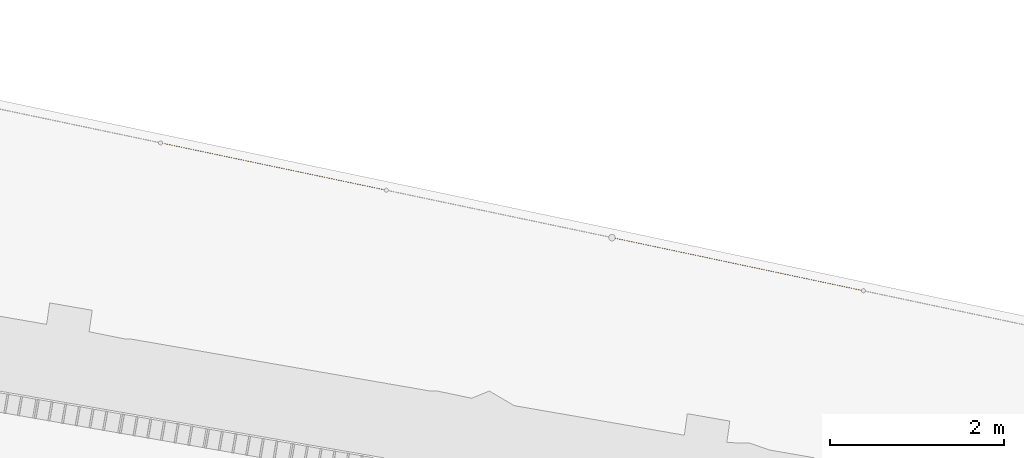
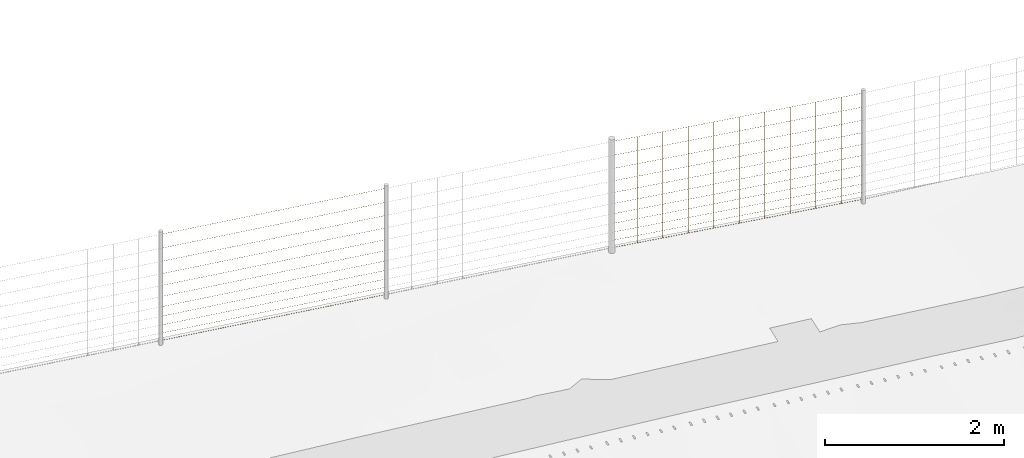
# Not in any storey, part 53 of 72: 2 railings.
"""IFC4 model written with IfcOpenShell, lengths in metres."""

from ifc_helpers import new_model, si_unit, direction, frame, origin_with_axes, place, context, subcontext, project, spatial, polygons, material, element, save


model = new_model("IFC4")

# Units and contexts
model_context = context("Model", 3, precision=1e-05, world=origin_with_axes(), true_north=direction((0.0, 1.0)))
body_context = subcontext(model_context, "Body", "Model", "MODEL_VIEW")
ifc_project = project(units=[si_unit("AREAUNIT", "SQUARE_METRE"), si_unit("VOLUMEUNIT", "CUBIC_METRE"), si_unit("LENGTHUNIT", "METRE")], contexts=[model_context])

# Site
site_placement = place(None, origin_with_axes())
site = spatial("IfcSite", under=ifc_project, at=site_placement, Name="Lares · Rua das Mercês · artigo 4771")

# Railings
ifc_material = material(Name="Aço galvanizado / Stahl verzinkt", Category="steel")
railing_1_placement = place(site_placement, frame((0.0, 0.0, 0.0), z_axis=(0.0, 0.0, 1.0), x_axis=(1.0, -1.03767253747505e-17, 0.0)))
element("IfcRailing", 1, at=railing_1_placement, inside=site, material=ifc_material, Name="Vedação · rede ovelheira 1.070", ObjectType="SHEEP_WIRE_FENCE", PredefinedType="USERDEFINED", context=body_context, shape_type="Tessellation", body=[
    polygons([(51.3069349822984, 14.2981467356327, 15.252935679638), (51.3072714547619, 14.2996087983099, 15.2514359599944), (51.307551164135, 14.3010827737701, 15.252935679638), (51.3072146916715, 14.2996207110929, 15.2544353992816), (53.907056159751, 13.7524632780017, 15.3043091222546), (53.9073926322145, 13.7539253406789, 15.302809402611), (53.9076723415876, 13.7553993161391, 15.3043091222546), (53.9073358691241, 13.7539372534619, 15.3058088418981), (51.3069349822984, 14.2981467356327, 15.352935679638), (51.3072714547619, 14.2996087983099, 15.3514359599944), (51.307551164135, 14.3010827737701, 15.352935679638), (51.3072146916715, 14.2996207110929, 15.3544353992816), (53.907056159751, 13.7524632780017, 15.4043091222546), (53.9073926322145, 13.7539253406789, 15.402809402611), (53.9076723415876, 13.7553993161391, 15.4043091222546), (53.9073358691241, 13.7539372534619, 15.4058088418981), (51.3069349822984, 14.2981467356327, 15.462935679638), (51.3072714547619, 14.2996087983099, 15.4614359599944), (51.307551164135, 14.3010827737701, 15.462935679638), (51.3072146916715, 14.2996207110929, 15.4644353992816), (53.907056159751, 13.7524632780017, 15.5143091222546), (53.9073926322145, 13.7539253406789, 15.512809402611), (53.9076723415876, 13.7553993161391, 15.5143091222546), (53.9073358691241, 13.7539372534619, 15.5158088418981), (51.3069349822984, 14.2981467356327, 15.582935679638), (51.3072714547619, 14.2996087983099, 15.5814359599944), (51.307551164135, 14.3010827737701, 15.582935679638), (51.3072146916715, 14.2996207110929, 15.5844353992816), (53.907056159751, 13.7524632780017, 15.6343091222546), (53.9073926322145, 13.7539253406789, 15.632809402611), (53.9076723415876, 13.7553993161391, 15.6343091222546), (53.9073358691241, 13.7539372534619, 15.6358088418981), (51.3069349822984, 14.2981467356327, 15.712935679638), (51.3072714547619, 14.2996087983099, 15.7114359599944), (51.307551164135, 14.3010827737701, 15.712935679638), (51.3072146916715, 14.2996207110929, 15.7144353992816), (53.907056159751, 13.7524632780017, 15.7643091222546), (53.9073926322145, 13.7539253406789, 15.762809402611), (53.9076723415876, 13.7553993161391, 15.7643091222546), (53.9073358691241, 13.7539372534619, 15.7658088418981), (51.3069349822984, 14.2981467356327, 15.852935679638), (51.3072714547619, 14.2996087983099, 15.8514359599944), (51.307551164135, 14.3010827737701, 15.852935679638), (51.3072146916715, 14.2996207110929, 15.8544353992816), (53.907056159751, 13.7524632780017, 15.9043091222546), (53.9073926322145, 13.7539253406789, 15.902809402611), (53.9076723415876, 13.7553993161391, 15.9043091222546), (53.9073358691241, 13.7539372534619, 15.9058088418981), (51.3069349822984, 14.2981467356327, 16.002935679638), (51.3072714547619, 14.2996087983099, 16.0014359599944), (51.307551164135, 14.3010827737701, 16.002935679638), (51.3072146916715, 14.2996207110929, 16.0044353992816), (53.907056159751, 13.7524632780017, 16.0543091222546), (53.9073926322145, 13.7539253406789, 16.052809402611), (53.9076723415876, 13.7553993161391, 16.0543091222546), (53.9073358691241, 13.7539372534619, 16.0558088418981), (51.3069349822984, 14.2981467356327, 16.162935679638), (51.3072714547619, 14.2996087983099, 16.1614359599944), (51.307551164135, 14.3010827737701, 16.162935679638), (51.3072146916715, 14.2996207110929, 16.1644353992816), (53.907056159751, 13.7524632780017, 16.2143091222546), (53.9073926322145, 13.7539253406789, 16.212809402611), (53.9076723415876, 13.7553993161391, 16.2143091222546), (53.9073358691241, 13.7539372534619, 16.2158088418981), (51.3069349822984, 14.2981467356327, 16.332935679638), (51.3072714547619, 14.2996087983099, 16.3314359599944), (51.307551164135, 14.3010827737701, 16.332935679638), (51.3072146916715, 14.2996207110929, 16.3344353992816), (53.907056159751, 13.7524632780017, 16.3843091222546), (53.9073926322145, 13.7539253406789, 16.382809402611), (53.9076723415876, 13.7553993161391, 16.3843091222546), (53.9073358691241, 13.7539372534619, 16.3858088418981), (51.3069349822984, 14.2981467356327, 16.512935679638), (51.3072714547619, 14.2996087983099, 16.5114359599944), (51.307551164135, 14.3010827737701, 16.512935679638), (51.3072146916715, 14.2996207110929, 16.5144353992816), (53.907056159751, 13.7524632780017, 16.5643091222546), (53.9073926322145, 13.7539253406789, 16.562809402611), (53.9076723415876, 13.7553993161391, 16.5643091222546), (53.9073358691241, 13.7539372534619, 16.5658088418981), (51.3069349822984, 14.2981467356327, 16.702935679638), (51.3072714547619, 14.2996087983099, 16.7014359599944), (51.307551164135, 14.3010827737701, 16.702935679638), (51.3072146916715, 14.2996207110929, 16.7044353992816), (53.907056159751, 13.7524632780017, 16.7543091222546), (53.9073926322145, 13.7539253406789, 16.752809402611), (53.9076723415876, 13.7553993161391, 16.7543091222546), (53.9073358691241, 13.7539372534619, 16.7558088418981), (51.6008468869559, 14.2394965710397, 15.2587367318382), (51.5993468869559, 14.2379965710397, 15.2587367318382), (51.6008468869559, 14.2364965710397, 15.2587367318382), (51.6023468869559, 14.2379965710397, 15.2587367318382), (51.6008468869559, 14.2394965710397, 16.7087367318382), (51.5993468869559, 14.2379965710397, 16.7087367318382), (51.6008468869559, 14.2364965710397, 16.7087367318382), (51.6023468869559, 14.2379965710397, 16.7087367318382), (51.8944507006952, 14.1778783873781, 15.2645377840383), (51.8929507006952, 14.1763783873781, 15.2645377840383), (51.8944507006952, 14.1748783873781, 15.2645377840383), (51.8959507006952, 14.1763783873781, 15.2645377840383), (51.8944507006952, 14.1778783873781, 16.7145377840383), (51.8929507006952, 14.1763783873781, 16.7145377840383), (51.8944507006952, 14.1748783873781, 16.7145377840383), (51.8959507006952, 14.1763783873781, 16.7145377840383), (52.1880545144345, 14.1162602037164, 15.2703388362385), (52.1865545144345, 14.1147602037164, 15.2703388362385), (52.1880545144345, 14.1132602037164, 15.2703388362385), (52.1895545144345, 14.1147602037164, 15.2703388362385), (52.1880545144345, 14.1162602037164, 16.7203388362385), (52.1865545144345, 14.1147602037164, 16.7203388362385), (52.1880545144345, 14.1132602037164, 16.7203388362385), (52.1895545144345, 14.1147602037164, 16.7203388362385), (52.4816583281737, 14.0546420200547, 15.2761398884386), (52.4801583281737, 14.0531420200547, 15.2761398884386), (52.4816583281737, 14.0516420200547, 15.2761398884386), (52.4831583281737, 14.0531420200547, 15.2761398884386), (52.4816583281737, 14.0546420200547, 16.7261398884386), (52.4801583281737, 14.0531420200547, 16.7261398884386), (52.4816583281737, 14.0516420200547, 16.7261398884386), (52.4831583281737, 14.0531420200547, 16.7261398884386), (52.775262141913, 13.993023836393, 15.2819409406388), (52.773762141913, 13.991523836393, 15.2819409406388), (52.775262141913, 13.990023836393, 15.2819409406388), (52.776762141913, 13.991523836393, 15.2819409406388), (52.775262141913, 13.993023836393, 16.7319409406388), (52.773762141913, 13.991523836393, 16.7319409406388), (52.775262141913, 13.990023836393, 16.7319409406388), (52.776762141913, 13.991523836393, 16.7319409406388), (53.0688659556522, 13.9314056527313, 15.287741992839), (53.0673659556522, 13.9299056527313, 15.287741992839), (53.0688659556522, 13.9284056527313, 15.287741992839), (53.0703659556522, 13.9299056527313, 15.287741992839), (53.0688659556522, 13.9314056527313, 16.737741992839), (53.0673659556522, 13.9299056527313, 16.737741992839), (53.0688659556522, 13.9284056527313, 16.737741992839), (53.0703659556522, 13.9299056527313, 16.737741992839), (53.3624697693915, 13.8697874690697, 15.2935430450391), (53.3609697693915, 13.8682874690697, 15.2935430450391), (53.3624697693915, 13.8667874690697, 15.2935430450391), (53.3639697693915, 13.8682874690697, 15.2935430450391), (53.3624697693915, 13.8697874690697, 16.7435430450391), (53.3609697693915, 13.8682874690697, 16.7435430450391), (53.3624697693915, 13.8667874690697, 16.7435430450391), (53.3639697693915, 13.8682874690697, 16.7435430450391), (53.6560735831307, 13.808169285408, 15.2993440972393), (53.6545735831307, 13.806669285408, 15.2993440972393), (53.6560735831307, 13.805169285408, 15.2993440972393), (53.6575735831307, 13.806669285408, 15.2993440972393), (53.6560735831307, 13.808169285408, 16.7493440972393), (53.6545735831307, 13.806669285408, 16.7493440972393), (53.6560735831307, 13.805169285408, 16.7493440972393), (53.6575735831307, 13.806669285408, 16.7493440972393)], [[[4, 3, 2, 1]], [[5, 6, 7, 8]], [[1, 2, 6, 5]], [[2, 3, 7, 6]], [[3, 4, 8, 7]], [[4, 1, 5, 8]], [[12, 11, 10, 9]], [[13, 14, 15, 16]], [[9, 10, 14, 13]], [[10, 11, 15, 14]], [[11, 12, 16, 15]], [[12, 9, 13, 16]], [[20, 19, 18, 17]], [[21, 22, 23, 24]], [[17, 18, 22, 21]], [[18, 19, 23, 22]], [[19, 20, 24, 23]], [[20, 17, 21, 24]], [[28, 27, 26, 25]], [[29, 30, 31, 32]], [[25, 26, 30, 29]], [[26, 27, 31, 30]], [[27, 28, 32, 31]], [[28, 25, 29, 32]], [[36, 35, 34, 33]], [[37, 38, 39, 40]], [[33, 34, 38, 37]], [[34, 35, 39, 38]], [[35, 36, 40, 39]], [[36, 33, 37, 40]], [[44, 43, 42, 41]], [[45, 46, 47, 48]], [[41, 42, 46, 45]], [[42, 43, 47, 46]], [[43, 44, 48, 47]], [[44, 41, 45, 48]], [[52, 51, 50, 49]], [[53, 54, 55, 56]], [[49, 50, 54, 53]], [[50, 51, 55, 54]], [[51, 52, 56, 55]], [[52, 49, 53, 56]], [[60, 59, 58, 57]], [[61, 62, 63, 64]], [[57, 58, 62, 61]], [[58, 59, 63, 62]], [[59, 60, 64, 63]], [[60, 57, 61, 64]], [[68, 67, 66, 65]], [[69, 70, 71, 72]], [[65, 66, 70, 69]], [[66, 67, 71, 70]], [[67, 68, 72, 71]], [[68, 65, 69, 72]], [[76, 75, 74, 73]], [[77, 78, 79, 80]], [[73, 74, 78, 77]], [[74, 75, 79, 78]], [[75, 76, 80, 79]], [[76, 73, 77, 80]], [[84, 83, 82, 81]], [[85, 86, 87, 88]], [[81, 82, 86, 85]], [[82, 83, 87, 86]], [[83, 84, 88, 87]], [[84, 81, 85, 88]], [[92, 91, 90, 89]], [[93, 94, 95, 96]], [[89, 90, 94, 93]], [[90, 91, 95, 94]], [[91, 92, 96, 95]], [[92, 89, 93, 96]], [[100, 99, 98, 97]], [[101, 102, 103, 104]], [[97, 98, 102, 101]], [[98, 99, 103, 102]], [[99, 100, 104, 103]], [[100, 97, 101, 104]], [[108, 107, 106, 105]], [[109, 110, 111, 112]], [[105, 106, 110, 109]], [[106, 107, 111, 110]], [[107, 108, 112, 111]], [[108, 105, 109, 112]], [[116, 115, 114, 113]], [[117, 118, 119, 120]], [[113, 114, 118, 117]], [[114, 115, 119, 118]], [[115, 116, 120, 119]], [[116, 113, 117, 120]], [[124, 123, 122, 121]], [[125, 126, 127, 128]], [[121, 122, 126, 125]], [[122, 123, 127, 126]], [[123, 124, 128, 127]], [[124, 121, 125, 128]], [[132, 131, 130, 129]], [[133, 134, 135, 136]], [[129, 130, 134, 133]], [[130, 131, 135, 134]], [[131, 132, 136, 135]], [[132, 129, 133, 136]], [[140, 139, 138, 137]], [[141, 142, 143, 144]], [[137, 138, 142, 141]], [[138, 139, 143, 142]], [[139, 140, 144, 143]], [[140, 137, 141, 144]], [[148, 147, 146, 145]], [[149, 150, 151, 152]], [[145, 146, 150, 149]], [[146, 147, 151, 150]], [[147, 148, 152, 151]], [[148, 145, 149, 152]]]),
])
railing_2_placement = place(site_placement, frame((0.0, 0.0, 0.0), z_axis=(0.0, 0.0, 1.0), x_axis=(1.0, -1.03767253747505e-17, 0.0)))
element("IfcRailing", 2, at=railing_2_placement, inside=site, material=ifc_material, Name="Vedação · rede ovelheira 1.072", ObjectType="SHEEP_WIRE_FENCE", PredefinedType="USERDEFINED", context=body_context, shape_type="Tessellation", body=[
    polygons([(56.5071750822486, 13.2067802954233, 15.3620506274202), (56.5074957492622, 13.2082456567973, 15.3605506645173), (56.5077957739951, 13.2097153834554, 15.3620506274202), (56.5074751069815, 13.2082500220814, 15.3635505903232), (59.4039696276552, 12.5941865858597, 15.3828746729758), (59.4042902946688, 12.5956519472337, 15.3813747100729), (59.4045903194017, 12.5971216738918, 15.3828746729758), (59.4042696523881, 12.5956563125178, 15.3843746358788), (56.5071750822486, 13.2067802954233, 15.4620506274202), (56.5074957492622, 13.2082456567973, 15.4605506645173), (56.5077957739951, 13.2097153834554, 15.4620506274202), (56.5074751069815, 13.2082500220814, 15.4635505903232), (59.4039696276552, 12.5941865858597, 15.4828746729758), (59.4042902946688, 12.5956519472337, 15.4813747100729), (59.4045903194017, 12.5971216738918, 15.4828746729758), (59.4042696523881, 12.5956563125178, 15.4843746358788), (56.5071750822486, 13.2067802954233, 15.5720506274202), (56.5074957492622, 13.2082456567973, 15.5705506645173), (56.5077957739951, 13.2097153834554, 15.5720506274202), (56.5074751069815, 13.2082500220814, 15.5735505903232), (59.4039696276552, 12.5941865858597, 15.5928746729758), (59.4042902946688, 12.5956519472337, 15.5913747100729), (59.4045903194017, 12.5971216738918, 15.5928746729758), (59.4042696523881, 12.5956563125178, 15.5943746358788), (56.5071750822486, 13.2067802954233, 15.6920506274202), (56.5074957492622, 13.2082456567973, 15.6905506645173), (56.5077957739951, 13.2097153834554, 15.6920506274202), (56.5074751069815, 13.2082500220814, 15.6935505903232), (59.4039696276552, 12.5941865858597, 15.7128746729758), (59.4042902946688, 12.5956519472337, 15.7113747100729), (59.4045903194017, 12.5971216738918, 15.7128746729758), (59.4042696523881, 12.5956563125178, 15.7143746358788), (56.5071750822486, 13.2067802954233, 15.8220506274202), (56.5074957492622, 13.2082456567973, 15.8205506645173), (56.5077957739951, 13.2097153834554, 15.8220506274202), (56.5074751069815, 13.2082500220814, 15.8235505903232), (59.4039696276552, 12.5941865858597, 15.8428746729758), (59.4042902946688, 12.5956519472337, 15.8413747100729), (59.4045903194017, 12.5971216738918, 15.8428746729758), (59.4042696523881, 12.5956563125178, 15.8443746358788), (56.5071750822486, 13.2067802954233, 15.9620506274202), (56.5074957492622, 13.2082456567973, 15.9605506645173), (56.5077957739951, 13.2097153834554, 15.9620506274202), (56.5074751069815, 13.2082500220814, 15.9635505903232), (59.4039696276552, 12.5941865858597, 15.9828746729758), (59.4042902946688, 12.5956519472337, 15.9813747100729), (59.4045903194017, 12.5971216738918, 15.9828746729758), (59.4042696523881, 12.5956563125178, 15.9843746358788), (56.5071750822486, 13.2067802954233, 16.1120506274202), (56.5074957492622, 13.2082456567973, 16.1105506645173), (56.5077957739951, 13.2097153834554, 16.1120506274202), (56.5074751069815, 13.2082500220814, 16.1135505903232), (59.4039696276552, 12.5941865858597, 16.1328746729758), (59.4042902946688, 12.5956519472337, 16.1313747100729), (59.4045903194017, 12.5971216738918, 16.1328746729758), (59.4042696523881, 12.5956563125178, 16.1343746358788), (56.5071750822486, 13.2067802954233, 16.2720506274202), (56.5074957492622, 13.2082456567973, 16.2705506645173), (56.5077957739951, 13.2097153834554, 16.2720506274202), (56.5074751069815, 13.2082500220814, 16.2735505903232), (59.4039696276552, 12.5941865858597, 16.2928746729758), (59.4042902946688, 12.5956519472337, 16.2913747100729), (59.4045903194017, 12.5971216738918, 16.2928746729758), (59.4042696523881, 12.5956563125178, 16.2943746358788), (56.5071750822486, 13.2067802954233, 16.4420506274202), (56.5074957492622, 13.2082456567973, 16.4405506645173), (56.5077957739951, 13.2097153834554, 16.4420506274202), (56.5074751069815, 13.2082500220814, 16.4435505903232), (59.4039696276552, 12.5941865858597, 16.4628746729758), (59.4042902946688, 12.5956519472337, 16.4613747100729), (59.4045903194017, 12.5971216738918, 16.4628746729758), (59.4042696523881, 12.5956563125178, 16.4643746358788), (56.5071750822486, 13.2067802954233, 16.6220506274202), (56.5074957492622, 13.2082456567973, 16.6205506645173), (56.5077957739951, 13.2097153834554, 16.6220506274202), (56.5074751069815, 13.2082500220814, 16.6235505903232), (59.4039696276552, 12.5941865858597, 16.6428746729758), (59.4042902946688, 12.5956519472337, 16.6413747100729), (59.4045903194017, 12.5971216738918, 16.6428746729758), (59.4042696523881, 12.5956563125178, 16.6443746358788), (56.5071750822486, 13.2067802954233, 16.8120506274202), (56.5074957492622, 13.2082456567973, 16.8105506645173), (56.5077957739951, 13.2097153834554, 16.8120506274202), (56.5074751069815, 13.2082500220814, 16.8135505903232), (59.4039696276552, 12.5941865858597, 16.8328746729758), (59.4042902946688, 12.5956519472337, 16.8313747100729), (59.4045903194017, 12.5971216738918, 16.8328746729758), (59.4042696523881, 12.5956563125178, 16.8343746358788), (56.8009942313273, 13.1476786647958, 15.3641605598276), (56.7994942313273, 13.1461786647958, 15.3641605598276), (56.8009942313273, 13.1446786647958, 15.3641605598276), (56.8024942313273, 13.1461786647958, 15.3641605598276), (56.8009942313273, 13.1476786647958, 16.8141605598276), (56.7994942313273, 13.1461786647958, 16.8141605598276), (56.8009942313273, 13.1446786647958, 16.8141605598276), (56.8024942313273, 13.1461786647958, 16.8141605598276), (57.0945030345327, 13.0856094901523, 15.366270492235), (57.0930030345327, 13.0841094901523, 15.366270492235), (57.0945030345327, 13.0826094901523, 15.366270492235), (57.0960030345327, 13.0841094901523, 15.366270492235), (57.0945030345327, 13.0856094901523, 16.816270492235), (57.0930030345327, 13.0841094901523, 16.816270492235), (57.0945030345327, 13.0826094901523, 16.816270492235), (57.0960030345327, 13.0841094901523, 16.816270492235), (57.3880118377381, 13.0235403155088, 15.3683804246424), (57.3865118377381, 13.0220403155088, 15.3683804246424), (57.3880118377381, 13.0205403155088, 15.3683804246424), (57.3895118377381, 13.0220403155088, 15.3683804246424), (57.3880118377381, 13.0235403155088, 16.8183804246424), (57.3865118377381, 13.0220403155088, 16.8183804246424), (57.3880118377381, 13.0205403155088, 16.8183804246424), (57.3895118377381, 13.0220403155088, 16.8183804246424), (57.6815206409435, 12.9614711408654, 15.3704903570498), (57.6800206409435, 12.9599711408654, 15.3704903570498), (57.6815206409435, 12.9584711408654, 15.3704903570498), (57.6830206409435, 12.9599711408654, 15.3704903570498), (57.6815206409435, 12.9614711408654, 16.8204903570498), (57.6800206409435, 12.9599711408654, 16.8204903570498), (57.6815206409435, 12.9584711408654, 16.8204903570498), (57.6830206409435, 12.9599711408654, 16.8204903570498), (57.9750294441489, 12.8994019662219, 15.3726002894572), (57.9735294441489, 12.8979019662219, 15.3726002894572), (57.9750294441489, 12.8964019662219, 15.3726002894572), (57.9765294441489, 12.8979019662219, 15.3726002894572), (57.9750294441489, 12.8994019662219, 16.8226002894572), (57.9735294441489, 12.8979019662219, 16.8226002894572), (57.9750294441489, 12.8964019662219, 16.8226002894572), (57.9765294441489, 12.8979019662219, 16.8226002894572), (58.2685382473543, 12.8373327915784, 15.3747102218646), (58.2670382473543, 12.8358327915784, 15.3747102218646), (58.2685382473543, 12.8343327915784, 15.3747102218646), (58.2700382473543, 12.8358327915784, 15.3747102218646), (58.2685382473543, 12.8373327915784, 16.8247102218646), (58.2670382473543, 12.8358327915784, 16.8247102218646), (58.2685382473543, 12.8343327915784, 16.8247102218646), (58.2700382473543, 12.8358327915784, 16.8247102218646), (58.5620470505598, 12.7752636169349, 15.376820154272), (58.5605470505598, 12.7737636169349, 15.376820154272), (58.5620470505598, 12.7722636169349, 15.376820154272), (58.5635470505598, 12.7737636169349, 15.376820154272), (58.5620470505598, 12.7752636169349, 16.826820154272), (58.5605470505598, 12.7737636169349, 16.826820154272), (58.5620470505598, 12.7722636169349, 16.826820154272), (58.5635470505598, 12.7737636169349, 16.826820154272), (58.8555558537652, 12.7131944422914, 15.3789300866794), (58.8540558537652, 12.7116944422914, 15.3789300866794), (58.8555558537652, 12.7101944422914, 15.3789300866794), (58.8570558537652, 12.7116944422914, 15.3789300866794), (58.8555558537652, 12.7131944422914, 16.8289300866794), (58.8540558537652, 12.7116944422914, 16.8289300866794), (58.8555558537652, 12.7101944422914, 16.8289300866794), (58.8570558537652, 12.7116944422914, 16.8289300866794), (59.1490646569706, 12.6511252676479, 15.3810400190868), (59.1475646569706, 12.6496252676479, 15.3810400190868), (59.1490646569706, 12.6481252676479, 15.3810400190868), (59.1505646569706, 12.6496252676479, 15.3810400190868), (59.1490646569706, 12.6511252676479, 16.8310400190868), (59.1475646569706, 12.6496252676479, 16.8310400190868), (59.1490646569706, 12.6481252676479, 16.8310400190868), (59.1505646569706, 12.6496252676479, 16.8310400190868)], [[[4, 3, 2, 1]], [[5, 6, 7, 8]], [[1, 2, 6, 5]], [[2, 3, 7, 6]], [[3, 4, 8, 7]], [[4, 1, 5, 8]], [[12, 11, 10, 9]], [[13, 14, 15, 16]], [[9, 10, 14, 13]], [[10, 11, 15, 14]], [[11, 12, 16, 15]], [[12, 9, 13, 16]], [[20, 19, 18, 17]], [[21, 22, 23, 24]], [[17, 18, 22, 21]], [[18, 19, 23, 22]], [[19, 20, 24, 23]], [[20, 17, 21, 24]], [[28, 27, 26, 25]], [[29, 30, 31, 32]], [[25, 26, 30, 29]], [[26, 27, 31, 30]], [[27, 28, 32, 31]], [[28, 25, 29, 32]], [[36, 35, 34, 33]], [[37, 38, 39, 40]], [[33, 34, 38, 37]], [[34, 35, 39, 38]], [[35, 36, 40, 39]], [[36, 33, 37, 40]], [[44, 43, 42, 41]], [[45, 46, 47, 48]], [[41, 42, 46, 45]], [[42, 43, 47, 46]], [[43, 44, 48, 47]], [[44, 41, 45, 48]], [[52, 51, 50, 49]], [[53, 54, 55, 56]], [[49, 50, 54, 53]], [[50, 51, 55, 54]], [[51, 52, 56, 55]], [[52, 49, 53, 56]], [[60, 59, 58, 57]], [[61, 62, 63, 64]], [[57, 58, 62, 61]], [[58, 59, 63, 62]], [[59, 60, 64, 63]], [[60, 57, 61, 64]], [[68, 67, 66, 65]], [[69, 70, 71, 72]], [[65, 66, 70, 69]], [[66, 67, 71, 70]], [[67, 68, 72, 71]], [[68, 65, 69, 72]], [[76, 75, 74, 73]], [[77, 78, 79, 80]], [[73, 74, 78, 77]], [[74, 75, 79, 78]], [[75, 76, 80, 79]], [[76, 73, 77, 80]], [[84, 83, 82, 81]], [[85, 86, 87, 88]], [[81, 82, 86, 85]], [[82, 83, 87, 86]], [[83, 84, 88, 87]], [[84, 81, 85, 88]], [[92, 91, 90, 89]], [[93, 94, 95, 96]], [[89, 90, 94, 93]], [[90, 91, 95, 94]], [[91, 92, 96, 95]], [[92, 89, 93, 96]], [[100, 99, 98, 97]], [[101, 102, 103, 104]], [[97, 98, 102, 101]], [[98, 99, 103, 102]], [[99, 100, 104, 103]], [[100, 97, 101, 104]], [[108, 107, 106, 105]], [[109, 110, 111, 112]], [[105, 106, 110, 109]], [[106, 107, 111, 110]], [[107, 108, 112, 111]], [[108, 105, 109, 112]], [[116, 115, 114, 113]], [[117, 118, 119, 120]], [[113, 114, 118, 117]], [[114, 115, 119, 118]], [[115, 116, 120, 119]], [[116, 113, 117, 120]], [[124, 123, 122, 121]], [[125, 126, 127, 128]], [[121, 122, 126, 125]], [[122, 123, 127, 126]], [[123, 124, 128, 127]], [[124, 121, 125, 128]], [[132, 131, 130, 129]], [[133, 134, 135, 136]], [[129, 130, 134, 133]], [[130, 131, 135, 134]], [[131, 132, 136, 135]], [[132, 129, 133, 136]], [[140, 139, 138, 137]], [[141, 142, 143, 144]], [[137, 138, 142, 141]], [[138, 139, 143, 142]], [[139, 140, 144, 143]], [[140, 137, 141, 144]], [[148, 147, 146, 145]], [[149, 150, 151, 152]], [[145, 146, 150, 149]], [[146, 147, 151, 150]], [[147, 148, 152, 151]], [[148, 145, 149, 152]], [[156, 155, 154, 153]], [[157, 158, 159, 160]], [[153, 154, 158, 157]], [[154, 155, 159, 158]], [[155, 156, 160, 159]], [[156, 153, 157, 160]]]),
])

save(model, "model.ifc")
